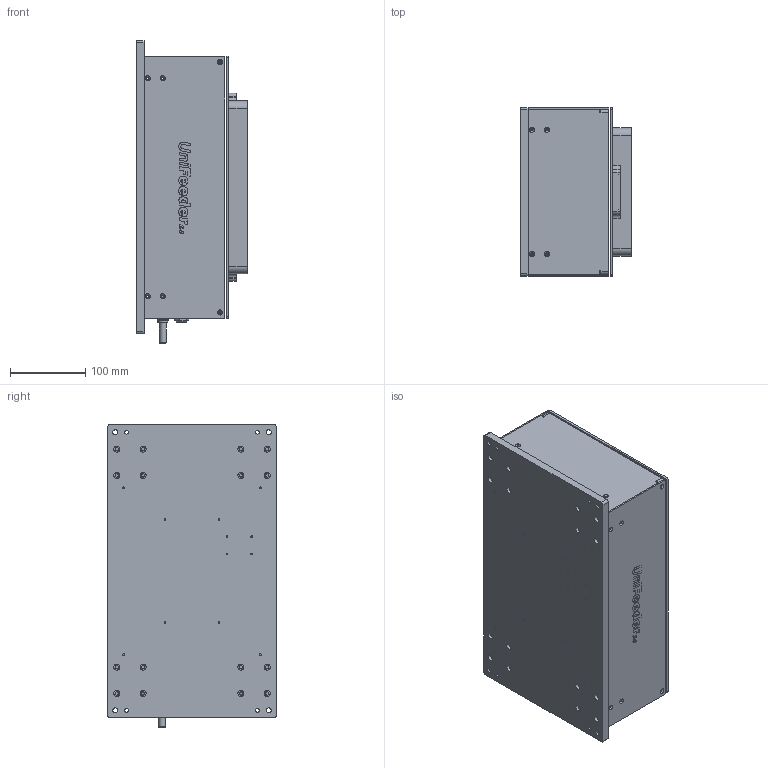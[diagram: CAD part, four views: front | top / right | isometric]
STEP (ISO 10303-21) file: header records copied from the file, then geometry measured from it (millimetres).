
FILE_DESCRIPTION(/* description */ (''),/* implementation_level */ '2;1');
FILE_NAME(/* name */ 'UniFeeder3.0 - R2(share).stp',/* time_stamp */ '2026-05-21T23:13:59+09:00',/* author */ ('houns'),/* organization */ (''),/* preprocessor_version */ 'ST-DEVELOPER v20',/* originating_system */ 'Autodesk Inventor 2024',/* authorisation */ '');
FILE_SCHEMA (('AUTOMOTIVE_DESIGN { 1 0 10303 214 3 1 1 }'));
Products named in the file (10): UniFeeder3.0 - R2(share); Uni3-02-Base plate-2; Uni3-04-Top plate-2; Uni3-11-Baseket-2; Uni3-09-Side COVER_2; Uni3-10-Side COVER_2; 파워버튼; RJ45 포트; PRC커넥터2; Uni3-08-1-Side COVER_MIR_2
Assembly tree (11 placements, depth 2):
  UniFeeder3.0 - R2(share)
    Uni3-02-Base plate-2
    Uni3-04-Top plate-2
    Uni3-11-Baseket-2
    Uni3-09-Side COVER_2
    Uni3-10-Side COVER_2
    PRC커넥터2  x2
    파워버튼
    RJ45 포트
    Uni3-08-1-Side COVER_MIR_2  x2
Bounding box: 147.5 x 224 x 402.5 mm (x, y, z)
Volume: 1552769.2 mm3; surface area: 656592.5 mm2
Topology: 11 solids, 11 shells, 2027 faces, 5374 edges, 3560 vertices
Faces by surface type: plane 1159, bspline 654, cylinder 185, cone 29
Full cylindrical faces by diameter (mm): 1 x4, 2.459 x22, 3.3 x26, 4.4 x4, 4.5 x16, 4.917 x4, 5 x1, 6.6 x4, 6.8 x4, 8 x16, 9 x2, 9.5 x1, 11 x7, 12 x1, 13 x3, 15 x3, 16 x1
Entity records: 61316 total; most frequent: CARTESIAN_POINT 17326, ORIENTED_EDGE 9706, DIRECTION 6632, EDGE_CURVE 4853, LINE 3336, VECTOR 3336, VERTEX_POINT 3212, EDGE_LOOP 2141
